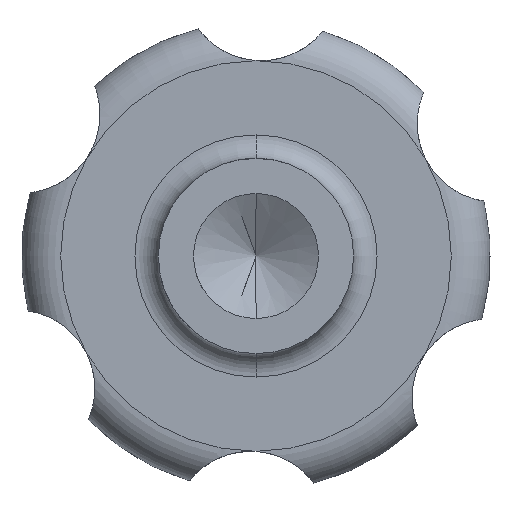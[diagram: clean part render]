
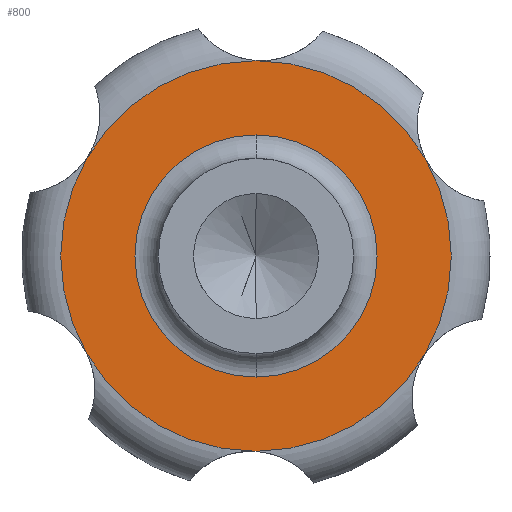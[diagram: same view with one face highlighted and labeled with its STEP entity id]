
A CAD part, front view. The second image highlights one B-rep face of the part: STEP entity #800.
In plain terms, the highlighted planar face has unit normal (0, -1, 0).
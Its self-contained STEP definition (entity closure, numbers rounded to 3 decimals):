
#41 = VERTEX_POINT ( 'NONE', #131 ) ;
#55 = CIRCLE ( 'NONE', #216, 15.5 ) ;
#131 = CARTESIAN_POINT ( 'NONE',  ( 0., 0., 15.5 ) ) ;
#146 = FACE_BOUND ( 'NONE', #924, .T. ) ;
#159 = CARTESIAN_POINT ( 'NONE',  ( 0., 0., 0. ) ) ;
#184 = EDGE_LOOP ( 'NONE', ( #481, #1675 ) ) ;
#216 = AXIS2_PLACEMENT_3D ( 'NONE', #960, #486, #1528 ) ;
#245 = CARTESIAN_POINT ( 'NONE',  ( 0., 0., 0. ) ) ;
#263 = CARTESIAN_POINT ( 'NONE',  ( 0., 0., -15.5 ) ) ;
#297 = DIRECTION ( 'NONE',  ( 0., 0., 1. ) ) ;
#300 = DIRECTION ( 'NONE',  ( 0., 1., 0. ) ) ;
#382 = EDGE_CURVE ( 'NONE', #41, #1247, #55, .T. ) ;
#387 = DIRECTION ( 'NONE',  ( 0., 1., 0. ) ) ;
#398 = CIRCLE ( 'NONE', #1251, 25. ) ;
#416 = FACE_OUTER_BOUND ( 'NONE', #184, .T. ) ;
#422 = DIRECTION ( 'NONE',  ( 0., 0., 1. ) ) ;
#481 = ORIENTED_EDGE ( 'NONE', *, *, #490, .T. ) ;
#486 = DIRECTION ( 'NONE',  ( 0., 1., 0. ) ) ;
#490 = EDGE_CURVE ( 'NONE', #1793, #627, #1602, .T. ) ;
#555 = CIRCLE ( 'NONE', #982, 15.5 ) ;
#571 = CARTESIAN_POINT ( 'NONE',  ( 0., 0., 0. ) ) ;
#572 = DIRECTION ( 'NONE',  ( 0., 0., 1. ) ) ;
#610 = EDGE_CURVE ( 'NONE', #627, #1793, #398, .T. ) ;
#627 = VERTEX_POINT ( 'NONE', #1757 ) ;
#667 = DIRECTION ( 'NONE',  ( 0., -1., 0. ) ) ;
#800 = ADVANCED_FACE ( 'NONE', ( #416, #146 ), #1141, .F. ) ;
#881 = AXIS2_PLACEMENT_3D ( 'NONE', #571, #300, #422 ) ;
#924 = EDGE_LOOP ( 'NONE', ( #1020, #936 ) ) ;
#936 = ORIENTED_EDGE ( 'NONE', *, *, #1048, .T. ) ;
#960 = CARTESIAN_POINT ( 'NONE',  ( 0., 0., 0. ) ) ;
#982 = AXIS2_PLACEMENT_3D ( 'NONE', #245, #387, #297 ) ;
#1020 = ORIENTED_EDGE ( 'NONE', *, *, #382, .T. ) ;
#1048 = EDGE_CURVE ( 'NONE', #1247, #41, #555, .T. ) ;
#1141 = PLANE ( 'NONE',  #881 ) ;
#1247 = VERTEX_POINT ( 'NONE', #263 ) ;
#1249 = DIRECTION ( 'NONE',  ( 0., 0., 1. ) ) ;
#1251 = AXIS2_PLACEMENT_3D ( 'NONE', #1390, #667, #1249 ) ;
#1313 = DIRECTION ( 'NONE',  ( 0., -1., 0. ) ) ;
#1390 = CARTESIAN_POINT ( 'NONE',  ( 0., 0., 0. ) ) ;
#1528 = DIRECTION ( 'NONE',  ( 0., 0., 1. ) ) ;
#1602 = CIRCLE ( 'NONE', #1782, 25. ) ;
#1675 = ORIENTED_EDGE ( 'NONE', *, *, #610, .T. ) ;
#1696 = CARTESIAN_POINT ( 'NONE',  ( 0., 0., 25. ) ) ;
#1757 = CARTESIAN_POINT ( 'NONE',  ( 0., 0., -25. ) ) ;
#1782 = AXIS2_PLACEMENT_3D ( 'NONE', #159, #1313, #572 ) ;
#1793 = VERTEX_POINT ( 'NONE', #1696 ) ;
